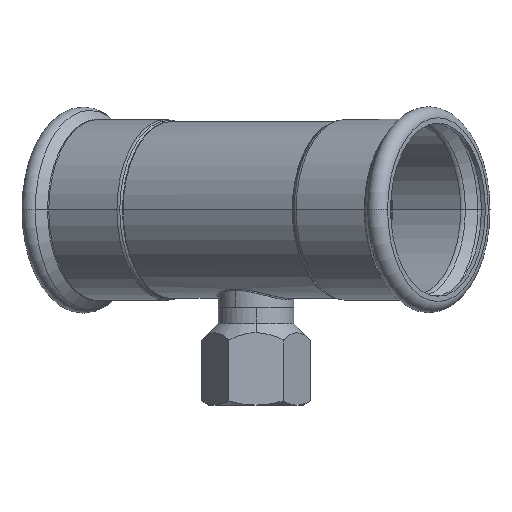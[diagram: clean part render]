
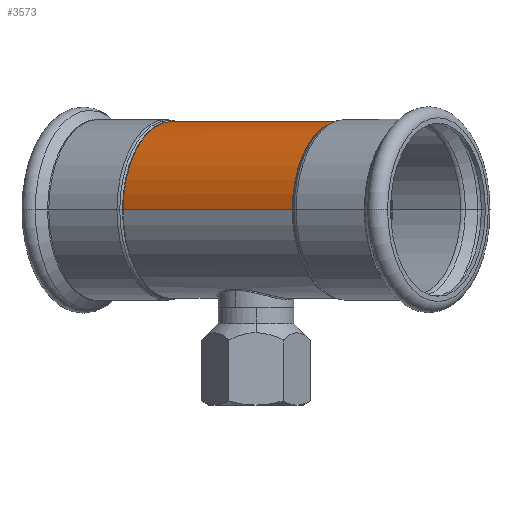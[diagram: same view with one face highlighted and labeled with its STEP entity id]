
A CAD part, top view. The second image highlights one B-rep face of the part: STEP entity #3573.
In plain terms, the highlighted cylindrical face has radius 28 mm (diameter 56 mm), a partial arc.
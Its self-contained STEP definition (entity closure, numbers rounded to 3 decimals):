
#89 = ORIENTED_EDGE ( 'NONE', *, *, #3295, .T. ) ;
#180 = VERTEX_POINT ( 'NONE', #1682 ) ;
#407 = VECTOR ( 'NONE', #552, 1000. ) ;
#552 = DIRECTION ( 'NONE',  ( -1., 0., 0. ) ) ;
#765 = AXIS2_PLACEMENT_3D ( 'NONE', #2131, #2745, #820 ) ;
#804 = VECTOR ( 'NONE', #3300, 1000. ) ;
#806 = DIRECTION ( 'NONE',  ( 0., 0., 1. ) ) ;
#820 = DIRECTION ( 'NONE',  ( 0., 0., 1. ) ) ;
#1226 = VERTEX_POINT ( 'NONE', #1418 ) ;
#1318 = VERTEX_POINT ( 'NONE', #3381 ) ;
#1418 = CARTESIAN_POINT ( 'NONE',  ( -32.06, 0., -28. ) ) ;
#1592 = EDGE_CURVE ( 'NONE', #180, #1318, #2796, .T. ) ;
#1598 = VERTEX_POINT ( 'NONE', #1749 ) ;
#1682 = CARTESIAN_POINT ( 'NONE',  ( 32.06, 0., -28. ) ) ;
#1690 = LINE ( 'NONE', #3246, #804 ) ;
#1749 = CARTESIAN_POINT ( 'NONE',  ( -32.06, 0., 28. ) ) ;
#1787 = LINE ( 'NONE', #3379, #407 ) ;
#1986 = ORIENTED_EDGE ( 'NONE', *, *, #1592, .T. ) ;
#2042 = ORIENTED_EDGE ( 'NONE', *, *, #2682, .F. ) ;
#2096 = DIRECTION ( 'NONE',  ( -1., 0., 0. ) ) ;
#2131 = CARTESIAN_POINT ( 'NONE',  ( 27.146, 0., 0. ) ) ;
#2389 = CARTESIAN_POINT ( 'NONE',  ( 32.06, 0., 0. ) ) ;
#2589 = AXIS2_PLACEMENT_3D ( 'NONE', #2389, #2096, #806 ) ;
#2673 = ORIENTED_EDGE ( 'NONE', *, *, #4156, .F. ) ;
#2682 = EDGE_CURVE ( 'NONE', #1226, #1598, #2712, .T. ) ;
#2703 = AXIS2_PLACEMENT_3D ( 'NONE', #3338, #3987, #3627 ) ;
#2712 = CIRCLE ( 'NONE', #2703, 28. ) ;
#2745 = DIRECTION ( 'NONE',  ( -1., 0., 0. ) ) ;
#2796 = CIRCLE ( 'NONE', #2589, 28. ) ;
#2911 = EDGE_LOOP ( 'NONE', ( #2673, #1986, #89, #2042 ) ) ;
#3054 = CYLINDRICAL_SURFACE ( 'NONE', #765, 28. ) ;
#3246 = CARTESIAN_POINT ( 'NONE',  ( 27.146, 0., 28. ) ) ;
#3295 = EDGE_CURVE ( 'NONE', #1318, #1598, #1690, .T. ) ;
#3300 = DIRECTION ( 'NONE',  ( -1., 0., 0. ) ) ;
#3338 = CARTESIAN_POINT ( 'NONE',  ( -32.06, 0., 0. ) ) ;
#3379 = CARTESIAN_POINT ( 'NONE',  ( 27.146, 0., -28. ) ) ;
#3381 = CARTESIAN_POINT ( 'NONE',  ( 32.06, 0., 28. ) ) ;
#3564 = FACE_OUTER_BOUND ( 'NONE', #2911, .T. ) ;
#3573 = ADVANCED_FACE ( 'NONE', ( #3564 ), #3054, .T. ) ;
#3627 = DIRECTION ( 'NONE',  ( 0., 0., 1. ) ) ;
#3987 = DIRECTION ( 'NONE',  ( -1., 0., 0. ) ) ;
#4156 = EDGE_CURVE ( 'NONE', #180, #1226, #1787, .T. ) ;
